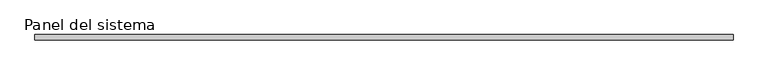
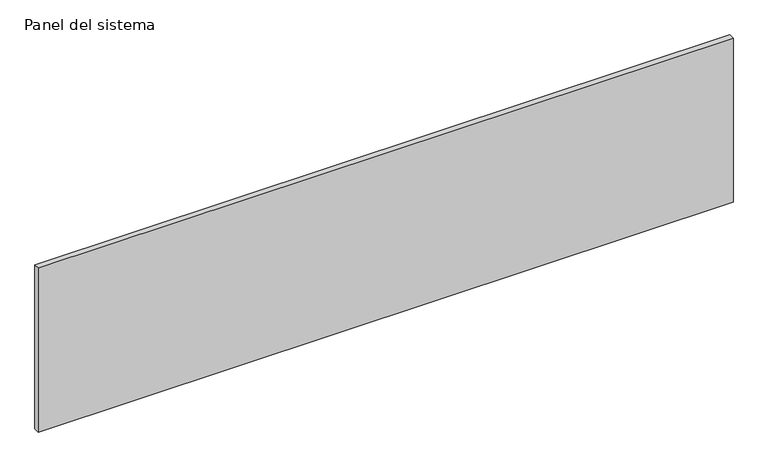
"""IFC4 building model written with IfcOpenShell, lengths in millimetres: plate geometry, Panel del sistema : Hiansa Panel - Fachada Panel PERFILADO Hor - 35mm."""

from ifc_helpers import new_model, si_unit, origin, origin_with_axes, place, context, project, spatial, polyline, outline, extrude, source, transform, mapped, element, save


def panel_del_sistema_7393e99a(model_context):
    return source(origin(), model_context, "Body", "SweptSolid", [
        extrude(outline(polyline([(2200.0, -35.0), (-2200.0, -35.0), (-2200.0, 0.0), (2200.0, 0.0), (2200.0, -35.0)])), origin_with_axes(), (0.0, 0.0, 1.0), 1100.0),
    ])


if __name__ == "__main__":
    model = new_model("IFC4")
    model_context = context("Model", 3, world=origin())
    ifc_project = project(units=[si_unit("LENGTHUNIT", "METRE", prefix="MILLI")], contexts=[model_context])
    site = spatial("IfcSite", under=ifc_project)
    building = spatial("IfcBuilding", under=site)
    placement = place(None, origin())
    panel_del_sistema_shape = panel_del_sistema_7393e99a(model_context)
    element("IfcPlate", 1, ObjectType="Panel del sistema : Hiansa Panel - Fachada Panel PERFILADO Hor - 35mm", at=placement, inside=building, context=model_context, shape_type="MappedRepresentation", body=[
        mapped(panel_del_sistema_shape, transform((0.0, 0.0, 0.0), x_axis=(1.0, 0.0, 0.0), y_axis=(0.0, 1.0, 0.0), z_axis=(0.0, 0.0, 1.0))),
    ])
    save(model, "model.ifc")
